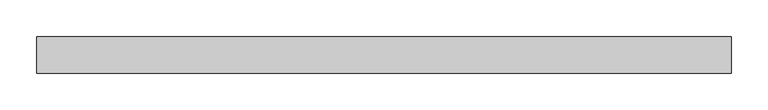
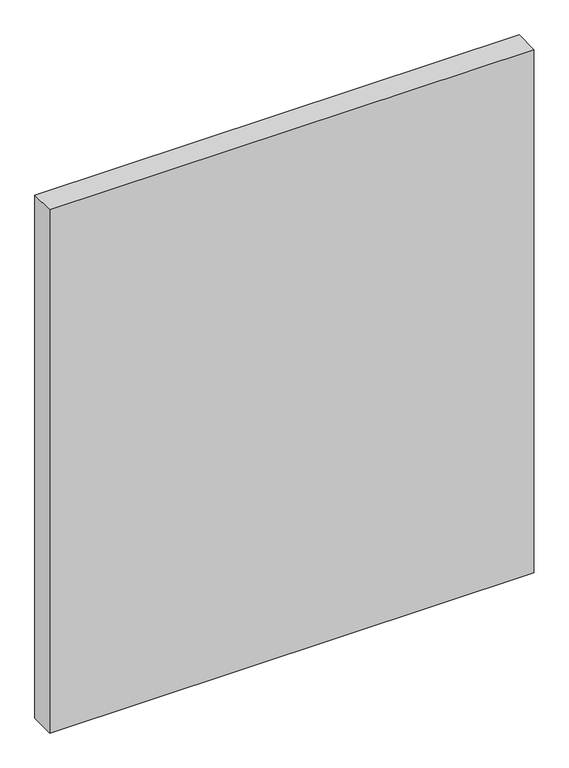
"""IFC4 building model written with IfcOpenShell, lengths in millimetres: plate geometry, Системная панель : Стекло(50мм)."""

from ifc_helpers import new_model, si_unit, origin, origin_with_axes, place, context, project, spatial, polyline, outline, extrude, source, transform, mapped, element, save


def plate_75760212(model_context):
    return source(origin(), model_context, "Body", "SweptSolid", [
        extrude(outline(polyline([(475.0, -25.0), (-475.0, -25.0), (-475.0, 25.0), (475.0, 25.0), (475.0, -25.0)])), origin_with_axes(), (0.0, 0.0, 1.0), 1085.0),
    ])


if __name__ == "__main__":
    model = new_model("IFC4")
    model_context = context("Model", 3, world=origin())
    ifc_project = project(units=[si_unit("LENGTHUNIT", "METRE", prefix="MILLI")], contexts=[model_context])
    site = spatial("IfcSite", under=ifc_project)
    building = spatial("IfcBuilding", under=site)
    placement = place(None, origin())
    plate_shape = plate_75760212(model_context)
    element("IfcPlate", 1, ObjectType="Системная панель : Стекло(50мм)", at=placement, inside=building, context=model_context, shape_type="MappedRepresentation", body=[
        mapped(plate_shape, transform((0.0, 0.0, 0.0), x_axis=(1.0, 0.0, 0.0), y_axis=(0.0, 1.0, 0.0), z_axis=(0.0, 0.0, 1.0))),
    ])
    save(model, "model.ifc")
